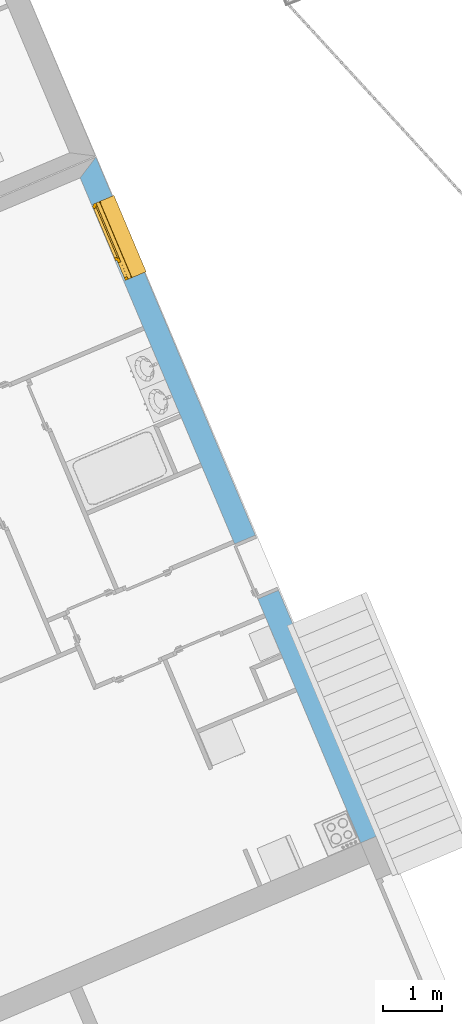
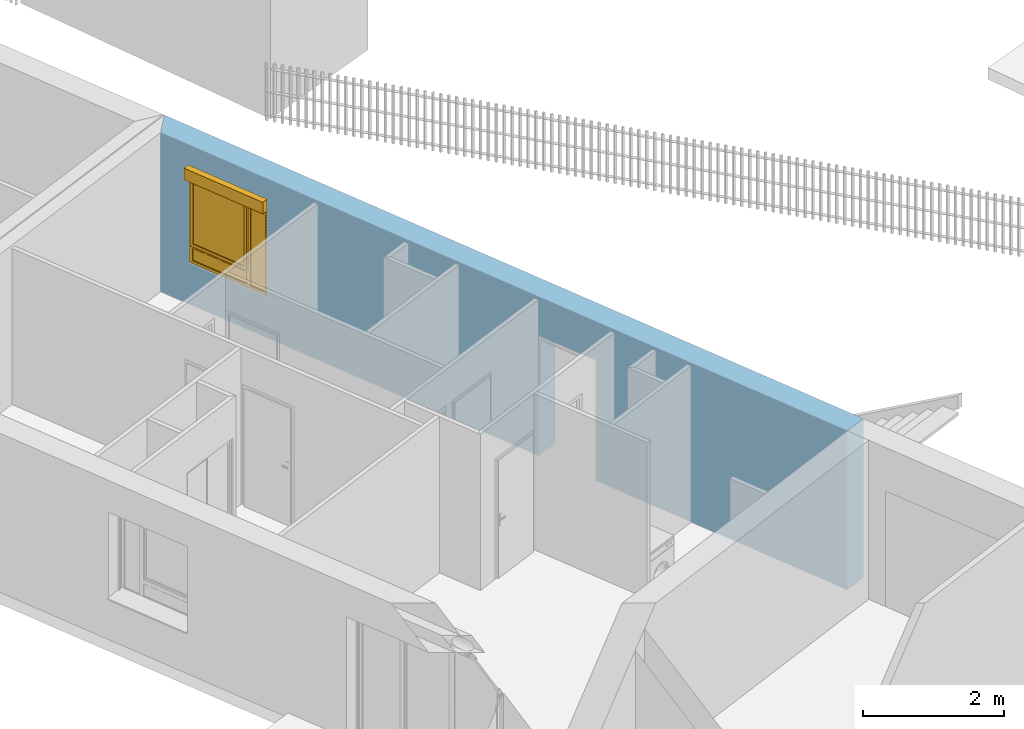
# One storey, part 55 of 195: 1 window, 2 openings, plus 1 element that does not belong to this part.
"""IFC2X3 building model written with IfcOpenShell, lengths in metres."""

from ifc_helpers import new_model, entity, si_unit, converted_unit, derived_unit, money_unit, direction, frame, origin_with_axes, origin_2d_with_axis, place, context, subcontext, project, spatial, polyline, rectangle, outline, extrude, open_shell, faceted_brep, surface_model, source, transform, mapped, material, layer, layer_set, layer_usage, type_object, element, fill, save


model = new_model("IFC2X3")

# Units and contexts
model_context = context("Model", 3, precision=1e-05, world=origin_with_axes(), true_north=direction((0.0, 1.0)))
body_context = subcontext(model_context, "Body", "Model", "MODEL_VIEW")
ifc_project = project(units=[si_unit("LENGTHUNIT", "METRE"), si_unit("AREAUNIT", "SQUARE_METRE"), si_unit("VOLUMEUNIT", "CUBIC_METRE"), converted_unit("PLANEANGLEUNIT", "DEGREE", entity("IfcPlaneAngleMeasure", 0.0174532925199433), si_unit("PLANEANGLEUNIT", "RADIAN"), dimensions=[0, 0, 0, 0, 0, 0, 0]), money_unit("CHF"), converted_unit("TIMEUNIT", "Year", entity("IfcTimeMeasure", 31557600.0), si_unit("TIMEUNIT", "SECOND"), dimensions=[0, 0, 1, 0, 0, 0, 0]), si_unit("MASSUNIT", "GRAM", prefix="KILO"), si_unit("THERMODYNAMICTEMPERATUREUNIT", "DEGREE_CELSIUS"), si_unit("LUMINOUSINTENSITYUNIT", "LUMEN"), si_unit("ENERGYUNIT", "JOULE", prefix="MEGA"), derived_unit("THERMALCONDUCTANCEUNIT", [(si_unit("POWERUNIT", "WATT"), 1), (si_unit("LENGTHUNIT", "METRE"), -1), (si_unit("THERMODYNAMICTEMPERATUREUNIT", "KELVIN"), -1)]), derived_unit("SPECIFICHEATCAPACITYUNIT", [(si_unit("ENERGYUNIT", "JOULE"), 1), (si_unit("MASSUNIT", "GRAM", prefix="KILO"), -1), (si_unit("THERMODYNAMICTEMPERATUREUNIT", "KELVIN"), -1)]), derived_unit("MASSDENSITYUNIT", [(si_unit("MASSUNIT", "GRAM", prefix="KILO"), 1), (si_unit("VOLUMEUNIT", "CUBIC_METRE"), -1)])], contexts=[model_context])

# Site, building, storey
site_placement = place(None, origin_with_axes())
site = spatial("IfcSite", under=ifc_project, at=site_placement, Name="Site", CompositionType="ELEMENT")
building_placement = place(site_placement, origin_with_axes())
building = spatial("IfcBuilding", under=site, at=building_placement, Name="Bâtiment", CompositionType="ELEMENT")
storey_placement = place(building_placement, origin_with_axes())
storey = spatial("IfcBuildingStorey", under=building, at=storey_placement, Name="rdc", CompositionType="ELEMENT", Elevation=0.0)

# Wall, openings, window
ifc_material_1 = material(Name="Parpaing 312445824")
ifc_layer_1 = layer(ifc_material_1, 0.22, ventilated="UNKNOWN")
ifc_material_2 = material(Name="Isolant styromousse 301821074")
ifc_layer_2 = layer(ifc_material_2, 0.16, ventilated="UNKNOWN")
ifc_layer_set = layer_set([ifc_layer_1, ifc_layer_2], Name="isol int 22+16 0836643197")
ifc_layer_usage = layer_usage(ifc_layer_set, "AXIS2", "NEGATIVE", 0.0)
wall_type = type_object("IfcWallType", Name="isol int 22+16 0836643197 380", PredefinedType="NOTDEFINED")
wall_placement = place(storey_placement, frame((9570.4407028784, -1042.559971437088, 57.7), z_axis=(0.0, 0.0, 1.0), x_axis=(0.3885669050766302, -0.9214205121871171, 0.0)))
wall = element("IfcWallStandardCase", 1, at=wall_placement, inside=storey, type_object=wall_type, material=ifc_layer_usage, Name="Mur-113", context=body_context, shape_type="SweptSolid", body=[
    extrude(outline(polyline([(0.0, -0.3799999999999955), (12.19520226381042, -0.3800000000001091), (12.19520226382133, 0.0), (-0.2199999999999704, 0.0), (0.0, -0.3799999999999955)])), origin_with_axes(), (0.0, 0.0, 1.0), 2.75),
])
opening_1_placement = place(wall_placement, frame((1.194048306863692, 0.0, 0.7000000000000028), z_axis=(0.0, 0.0, 1.0), x_axis=(1.0, 0.0, 0.0)))
opening_1 = element("IfcOpeningElement", 2, at=opening_1_placement, cuts=wall, Name="Fen-045", context=body_context, shape_type="Brep", body=[
    faceted_brep([(-0.6999999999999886, -0.2200000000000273, 1.5), (0.6999999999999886, -0.2200000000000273, 1.5), (0.7000000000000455, 4.367291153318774, 1.5), (-0.6999999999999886, 4.367291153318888, 1.5), (-0.6999999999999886, -0.2200000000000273, 1.700000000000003), (0.6999999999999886, -0.2200000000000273, 1.700000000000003), (0.7000000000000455, -0.2999999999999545, 1.5), (0.7000000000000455, -0.2999999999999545, 0.0), (0.7000000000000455, 4.367291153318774, 0.0), (-0.6999999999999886, 4.367291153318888, 0.0), (-0.7000000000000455, -0.3000000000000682, 1.5), (-0.7000000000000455, -0.3000000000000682, 0.0), (-0.7000000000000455, -0.4800000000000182, 1.5), (-0.7000000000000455, -0.4800000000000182, 1.700000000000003), (0.7000000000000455, -0.4800000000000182, 1.700000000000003), (0.7000000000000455, -0.4800000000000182, 1.5), (0.7000000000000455, -4.747291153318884, 1.5), (0.7000000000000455, -4.747291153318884, 0.0), (-0.7000000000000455, -4.747291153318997, 0.0), (-0.7000000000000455, -4.747291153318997, 1.5)], [[[0, 1, 2, 3]], [[1, 0, 4, 5]], [[1, 6, 7, 8, 2]], [[2, 8, 9, 3]], [[10, 0, 3, 9, 11]], [[0, 10, 12, 13, 4]], [[14, 5, 4, 13]], [[6, 1, 5, 14, 15]], [[6, 15, 16, 17, 7]], [[7, 11, 9, 8]], [[12, 10, 11, 18, 19]], [[12, 15, 14, 13]], [[15, 12, 19, 16]], [[19, 18, 17, 16]], [[11, 7, 17, 18]]]),
])
opening_2_placement = place(wall_placement, frame((7.218539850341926, 0.0, 0.0), z_axis=(0.0, 0.0, 1.0), x_axis=(1.0, 0.0, 0.0)))
element("IfcOpeningElement", 3, at=opening_2_placement, cuts=wall, Name="Por-290", context=body_context, shape_type="SweptSolid", body=[
    extrude(rectangle(XDim=1.01000001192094, YDim=2.079999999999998, at=origin_2d_with_axis()), frame((-5.960373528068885e-09, 0.3800000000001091, 1.039999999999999), z_axis=(0.0, -1.0, 0.0), x_axis=(-1.0, 0.0, 0.0)), (0.0, 0.0, 1.0), 0.76),
])
window_style = type_object("IfcWindowStyle", Name="Fenêtre variable 27", ConstructionType="NOTDEFINED", OperationType="TRIPLE_PANEL_LEFT", ParameterTakesPrecedence=False, Sizeable=False)
shared_shape = source(origin_with_axes(), body_context, "Body", "SurfaceModel", [
    surface_model("IfcShellBasedSurfaceModel", [(0.7, -0.05100000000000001, 0.05), (-0.7, -0.05100000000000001, 0.05000000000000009), (-0.7, -0.05100000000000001, 0.04000000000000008), (0.7, -0.05100000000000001, 0.04), (-0.7, -0.3799999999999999, 0.02900000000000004), (0.7, -0.3799999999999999, 0.02899999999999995), (-0.7, -0.3799999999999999, 0.00900000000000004), (0.7, -0.3799999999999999, 0.008999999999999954), (-0.7, -0.3699999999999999, 0.01900000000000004), (0.7, -0.3699999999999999, 0.01899999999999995)], [open_shell([[[0, 1, 2, 3]], [[3, 2, 4, 5]], [[5, 4, 6, 7]], [[7, 6, 8, 9]]])]),
    faceted_brep([(0.7, -0.13, 1.7), (0.7, 0.13, 1.7), (0.697, 0.13, 1.7), (0.697, -0.13, 1.7), (0.7, -0.13, 1.5), (0.7, 0.13, 1.5), (0.697, 0.13, 1.5), (0.697, -0.13, 1.5)], [[[0, 1, 2, 3]], [[0, 4, 5, 1]], [[1, 5, 6, 2]], [[3, 2, 6, 7]], [[4, 0, 3, 7]], [[5, 4, 7, 6]]]),
    faceted_brep([(-0.6970000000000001, -0.1299999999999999, 1.7), (-0.6970000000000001, 0.1300000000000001, 1.7), (-0.7000000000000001, 0.1300000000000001, 1.7), (-0.7000000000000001, -0.1299999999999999, 1.7), (-0.6970000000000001, -0.1299999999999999, 1.5), (-0.6970000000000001, 0.1300000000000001, 1.5), (-0.7000000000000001, 0.1300000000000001, 1.5), (-0.7000000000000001, -0.1299999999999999, 1.5)], [[[0, 1, 2, 3]], [[0, 4, 5, 1]], [[1, 5, 6, 2]], [[3, 2, 6, 7]], [[4, 0, 3, 7]], [[5, 4, 7, 6]]]),
    faceted_brep([(0.697, -0.13, 1.5), (0.697, -0.13, 1.7), (-0.697, -0.1299999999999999, 1.7), (-0.697, -0.1299999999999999, 1.5), (0.697, -0.127, 1.5), (0.697, -0.127, 1.697), (0.697, 0.127, 1.697), (0.697, 0.127, 1.503), (0.697, -0.108, 1.503), (0.697, -0.108, 1.5), (0.697, 0.13, 1.5), (0.697, 0.13, 1.7), (-0.697, 0.1300000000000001, 1.7), (-0.697, 0.1300000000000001, 1.5), (-0.697, -0.1079999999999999, 1.5), (-0.697, -0.1079999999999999, 1.503), (-0.697, 0.1270000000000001, 1.503), (-0.697, 0.1270000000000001, 1.697), (-0.697, -0.1269999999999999, 1.697), (-0.697, -0.1269999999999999, 1.5)], [[[0, 1, 2, 3]], [[0, 4, 5, 6, 7, 8, 9, 10, 11, 1]], [[1, 11, 12, 2]], [[3, 2, 12, 13, 14, 15, 16, 17, 18, 19]], [[4, 0, 3, 19]], [[5, 4, 19, 18]], [[6, 5, 18, 17]], [[7, 6, 17, 16]], [[8, 7, 16, 15]], [[9, 8, 15, 14]], [[10, 9, 14, 13]], [[11, 10, 13, 12]]]),
    faceted_brep([(0.694, -0.08075423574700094, 1.585760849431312), (0.694, -0.07705479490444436, 1.571954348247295), (0.694, -0.07101408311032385, 1.559), (0.694, -0.06281564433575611, 1.547291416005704), (0.694, -0.05270858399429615, 1.537184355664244), (0.694, -0.04099999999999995, 1.528985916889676), (0.694, -0.02804565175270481, 1.522945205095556), (0.694, -0.01423915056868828, 1.519245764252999), (0.694, 0.0, 1.518), (0.694, 0.01423915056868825, 1.519245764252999), (0.694, 0.02804565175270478, 1.522945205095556), (0.694, 0.04099999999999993, 1.528985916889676), (0.694, 0.05270858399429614, 1.537184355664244), (0.694, 0.06281564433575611, 1.547291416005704), (0.694, 0.07101408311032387, 1.559), (0.694, 0.07705479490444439, 1.571954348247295), (0.694, 0.08075423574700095, 1.585760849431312), (0.694, 0.0819999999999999, 1.6), (0.694, 0.08075423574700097, 1.614239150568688), (0.694, 0.0770547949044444, 1.628045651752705), (0.694, 0.07101408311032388, 1.641), (0.694, 0.06281564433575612, 1.652708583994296), (0.694, 0.05270858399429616, 1.662815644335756), (0.694, 0.04099999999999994, 1.671014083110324), (0.694, 0.02804565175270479, 1.677054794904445), (0.694, 0.01423915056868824, 1.680754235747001), (0.694, 0.0, 1.682), (0.694, -0.01423915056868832, 1.680754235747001), (0.694, -0.02804565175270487, 1.677054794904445), (0.694, -0.04100000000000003, 1.671014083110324), (0.694, -0.05270858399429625, 1.662815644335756), (0.694, -0.06281564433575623, 1.652708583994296), (0.694, -0.07101408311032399, 1.641), (0.694, -0.07705479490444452, 1.628045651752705), (0.694, -0.0807542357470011, 1.614239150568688), (0.694, -0.08200000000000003, 1.6), (-0.694, -0.08075423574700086, 1.585760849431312), (-0.694, -0.07705479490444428, 1.571954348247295), (-0.694, -0.07101408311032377, 1.559), (-0.694, -0.06281564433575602, 1.547291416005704), (-0.694, -0.05270858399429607, 1.537184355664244), (-0.694, -0.04099999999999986, 1.528985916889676), (-0.694, -0.02804565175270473, 1.522945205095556), (-0.694, -0.0142391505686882, 1.519245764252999), (-0.694, 0.0, 1.518), (-0.694, 0.01423915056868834, 1.519245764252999), (-0.694, 0.02804565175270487, 1.522945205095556), (-0.694, 0.04100000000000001, 1.528985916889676), (-0.694, 0.05270858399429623, 1.537184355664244), (-0.694, 0.06281564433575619, 1.547291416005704), (-0.694, 0.07101408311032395, 1.559), (-0.694, 0.07705479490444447, 1.571954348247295), (-0.694, 0.08075423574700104, 1.585760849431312), (-0.694, 0.08199999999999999, 1.6), (-0.694, 0.08075423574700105, 1.614239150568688), (-0.694, 0.07705479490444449, 1.628045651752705), (-0.694, 0.07101408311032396, 1.641), (-0.694, 0.0628156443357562, 1.652708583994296), (-0.694, 0.05270858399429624, 1.662815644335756), (-0.694, 0.04100000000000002, 1.671014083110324), (-0.694, 0.02804565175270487, 1.677054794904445), (-0.694, 0.01423915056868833, 1.680754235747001), (-0.694, 0.0, 1.682), (-0.694, -0.01423915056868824, 1.680754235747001), (-0.694, -0.02804565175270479, 1.677054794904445), (-0.694, -0.04099999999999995, 1.671014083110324), (-0.694, -0.05270858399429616, 1.662815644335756), (-0.694, -0.06281564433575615, 1.652708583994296), (-0.694, -0.07101408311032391, 1.641), (-0.694, -0.07705479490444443, 1.628045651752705), (-0.694, -0.08075423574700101, 1.614239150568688), (-0.694, -0.08199999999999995, 1.6)], [[[0, 1, 2, 3, 4, 5, 6, 7, 8, 9, 10, 11, 12, 13, 14, 15, 16, 17, 18, 19, 20, 21, 22, 23, 24, 25, 26, 27, 28, 29, 30, 31, 32, 33, 34, 35]], [[1, 0, 36, 37]], [[2, 1, 37, 38]], [[3, 2, 38, 39]], [[4, 3, 39, 40]], [[5, 4, 40, 41]], [[6, 5, 41, 42]], [[7, 6, 42, 43]], [[8, 7, 43, 44]], [[9, 8, 44, 45]], [[10, 9, 45, 46]], [[11, 10, 46, 47]], [[12, 11, 47, 48]], [[13, 12, 48, 49]], [[14, 13, 49, 50]], [[15, 14, 50, 51]], [[16, 15, 51, 52]], [[17, 16, 52, 53]], [[18, 17, 53, 54]], [[19, 18, 54, 55]], [[20, 19, 55, 56]], [[21, 20, 56, 57]], [[22, 21, 57, 58]], [[23, 22, 58, 59]], [[24, 23, 59, 60]], [[25, 24, 60, 61]], [[26, 25, 61, 62]], [[27, 26, 62, 63]], [[28, 27, 63, 64]], [[29, 28, 64, 65]], [[30, 29, 65, 66]], [[31, 30, 66, 67]], [[32, 31, 67, 68]], [[33, 32, 68, 69]], [[34, 33, 69, 70]], [[35, 34, 70, 71]], [[0, 35, 71, 36]], [[36, 71, 70, 69, 68, 67, 66, 65, 64, 63, 62, 61, 60, 59, 58, 57, 56, 55, 54, 53, 52, 51, 50, 49, 48, 47, 46, 45, 44, 43, 42, 41, 40, 39, 38, 37]]]),
    faceted_brep([(-0.7, -0.105, 0.03), (-0.7, -0.13, 0.03), (-0.7, -0.1299999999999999, 1.5), (-0.7, -0.1049999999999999, 1.5), (-0.6749999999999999, -0.105, 0.03), (-0.6749999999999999, -0.108, 0.03), (-0.697, -0.108, 0.03), (-0.697, -0.127, 0.03), (-0.6749999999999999, -0.127, 0.03), (-0.6749999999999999, -0.13, 0.03), (-0.6749999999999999, -0.1299999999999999, 1.5), (-0.6749999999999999, -0.1269999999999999, 1.5), (-0.697, -0.1269999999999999, 1.5), (-0.697, -0.1079999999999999, 1.5), (-0.6749999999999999, -0.1079999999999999, 1.5), (-0.6749999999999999, -0.1049999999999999, 1.5)], [[[0, 1, 2, 3]], [[0, 4, 5, 6, 7, 8, 9, 1]], [[1, 9, 10, 2]], [[3, 2, 10, 11, 12, 13, 14, 15]], [[4, 0, 3, 15]], [[5, 4, 15, 14]], [[6, 5, 14, 13]], [[7, 6, 13, 12]], [[8, 7, 12, 11]], [[9, 8, 11, 10]]]),
    faceted_brep([(0.7, -0.105, 0.03), (0.7, -0.1049999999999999, 1.5), (0.7, -0.1299999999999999, 1.5), (0.7, -0.13, 0.03), (0.6749999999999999, -0.105, 0.03), (0.6749999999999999, -0.1049999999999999, 1.5), (0.6749999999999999, -0.1079999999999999, 1.5), (0.697, -0.1079999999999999, 1.5), (0.697, -0.1269999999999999, 1.5), (0.6749999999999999, -0.1269999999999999, 1.5), (0.6749999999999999, -0.1299999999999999, 1.5), (0.6749999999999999, -0.13, 0.03), (0.6749999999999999, -0.127, 0.03), (0.697, -0.127, 0.03), (0.697, -0.108, 0.03), (0.6749999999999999, -0.108, 0.03)], [[[0, 1, 2, 3]], [[4, 5, 1, 0]], [[1, 5, 6, 7, 8, 9, 10, 2]], [[3, 2, 10, 11]], [[0, 3, 11, 12, 13, 14, 15, 4]], [[15, 6, 5, 4]], [[14, 7, 6, 15]], [[13, 8, 7, 14]], [[12, 9, 8, 13]], [[11, 10, 9, 12]]]),
    surface_model("IfcShellBasedSurfaceModel", [(0.697, -0.115, 1.6), (-0.697, -0.1149999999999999, 1.6), (-0.697, -0.12, 1.6), (0.697, -0.12, 1.6), (0.697, -0.115, 1.6), (0.697, -0.12, 1.6), (-0.697, -0.1199999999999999, 1.6), (-0.697, -0.1149999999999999, 1.6)], [open_shell([[[0, 1, 2, 3]], [[4, 5, 6, 7]]])]),
    faceted_brep([(0.697, -0.115, 1.6), (0.697, -0.1166666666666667, 1.583333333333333), (-0.697, -0.1166666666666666, 1.583333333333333), (-0.697, -0.1149999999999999, 1.6), (0.697, -0.12, 1.6), (0.697, -0.1216666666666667, 1.583333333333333), (0.697, -0.1216666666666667, 1.566666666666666), (0.697, -0.12, 1.55), (0.697, -0.115, 1.55), (0.697, -0.1166666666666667, 1.566666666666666), (-0.697, -0.1166666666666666, 1.566666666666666), (-0.697, -0.1149999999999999, 1.55), (-0.697, -0.1199999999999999, 1.55), (-0.697, -0.1216666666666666, 1.566666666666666), (-0.697, -0.1216666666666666, 1.583333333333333), (-0.697, -0.1199999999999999, 1.6)], [[[0, 1, 2, 3]], [[0, 4, 5, 6, 7, 8, 9, 1]], [[1, 9, 10, 2]], [[3, 2, 10, 11, 12, 13, 14, 15]], [[4, 0, 3, 15]], [[5, 4, 15, 14]], [[6, 5, 14, 13]], [[7, 6, 13, 12]], [[8, 7, 12, 11]], [[9, 8, 11, 10]]]),
    faceted_brep([(0.697, -0.115, 1.55), (0.697, -0.1166666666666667, 1.533333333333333), (-0.697, -0.1166666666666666, 1.533333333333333), (-0.697, -0.1149999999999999, 1.55), (0.697, -0.12, 1.55), (0.697, -0.1216666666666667, 1.533333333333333), (0.697, -0.1216666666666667, 1.516666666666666), (0.697, -0.12, 1.5), (0.697, -0.115, 1.5), (0.697, -0.1166666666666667, 1.516666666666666), (-0.697, -0.1166666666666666, 1.516666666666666), (-0.697, -0.1149999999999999, 1.5), (-0.697, -0.1199999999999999, 1.5), (-0.697, -0.1216666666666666, 1.516666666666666), (-0.697, -0.1216666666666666, 1.533333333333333), (-0.697, -0.1199999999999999, 1.55)], [[[0, 1, 2, 3]], [[0, 4, 5, 6, 7, 8, 9, 1]], [[1, 9, 10, 2]], [[3, 2, 10, 11, 12, 13, 14, 15]], [[4, 0, 3, 15]], [[5, 4, 15, 14]], [[6, 5, 14, 13]], [[7, 6, 13, 12]], [[8, 7, 12, 11]], [[9, 8, 11, 10]]]),
    faceted_brep([(0.6749999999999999, 0.0, 1.45), (0.6749999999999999, -0.02500000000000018, 1.45), (0.6499999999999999, -0.02500000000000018, 1.45), (0.6499999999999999, -0.05000000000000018, 1.45), (0.7, -0.05000000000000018, 1.45), (0.7, 0.0, 1.45), (0.6749999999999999, 0.0, 0.3099999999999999), (0.6749999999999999, -0.02500000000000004, 0.3099999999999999), (0.6499999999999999, -0.02500000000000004, 0.335), (0.6499999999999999, -0.02500000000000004, 0.3099999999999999), (0.6499999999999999, -0.05000000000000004, 0.335), (0.6499999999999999, -0.05000000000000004, 0.265), (0.6499999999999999, -0.05000000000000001, 0.05000000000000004), (0.7, -0.05000000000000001, 0.05000000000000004), (0.7, 0.0, 0.05000000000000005), (0.6499999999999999, 0.0, 0.05000000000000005), (0.6499999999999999, 0.0, 0.265), (0.6499999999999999, 0.0, 0.3099999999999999)], [[[0, 1, 2, 3, 4, 5]], [[1, 0, 6, 7]], [[8, 2, 1, 7, 9]], [[2, 8, 10, 3]], [[10, 11, 12, 13, 4, 3]], [[5, 4, 13, 14]], [[6, 0, 5, 14, 15, 16, 17]], [[6, 17, 9, 7]], [[9, 17, 16, 11, 10, 8]], [[15, 12, 11, 16]], [[14, 13, 12, 15]]]),
    faceted_brep([(-0.3068894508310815, -0.02500000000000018, 1.45), (-0.3318894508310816, -0.02500000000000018, 1.45), (-0.3318894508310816, 0.0, 1.45), (-0.3768894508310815, 0.0, 1.45), (-0.3768894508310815, -0.05000000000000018, 1.45), (-0.3068894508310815, -0.05000000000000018, 1.45), (-0.3068894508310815, -0.02500000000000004, 0.335), (-0.3068894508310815, -0.02500000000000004, 0.3099999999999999), (-0.3318894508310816, -0.02500000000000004, 0.3099999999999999), (-0.3318894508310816, 0.0, 0.3099999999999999), (-0.3068894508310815, 0.0, 0.3099999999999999), (-0.3068894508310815, 0.0, 0.265), (-0.3068894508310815, 0.0, 0.05000000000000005), (-0.3768894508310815, 0.0, 0.05000000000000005), (-0.3768894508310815, -0.05000000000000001, 0.05000000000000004), (-0.3068894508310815, -0.05000000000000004, 0.265), (-0.3068894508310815, -0.05000000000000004, 0.335), (-0.3068894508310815, -0.05000000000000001, 0.05000000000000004)], [[[0, 1, 2, 3, 4, 5]], [[1, 0, 6, 7, 8]], [[9, 2, 1, 8]], [[9, 10, 11, 12, 13, 3, 2]], [[13, 14, 4, 3]], [[15, 16, 5, 4, 14, 17]], [[6, 0, 5, 16]], [[7, 6, 16, 15, 11, 10]], [[10, 9, 8, 7]], [[11, 15, 17, 12]], [[12, 17, 14, 13]]]),
    faceted_brep([(0.6499999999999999, -0.02500000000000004, 0.335), (-0.3068894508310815, -0.02500000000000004, 0.335), (-0.3068894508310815, -0.05000000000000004, 0.335), (0.6499999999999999, -0.05000000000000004, 0.335), (-0.3068894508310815, -0.02500000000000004, 0.3099999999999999), (0.6499999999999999, -0.02500000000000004, 0.3099999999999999), (-0.3068894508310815, 0.0, 0.3099999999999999), (-0.3068894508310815, 0.0, 0.265), (-0.3068894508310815, -0.05000000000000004, 0.265), (0.6499999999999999, -0.05000000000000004, 0.265), (0.6499999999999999, 0.0, 0.265), (0.6499999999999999, 0.0, 0.3099999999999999)], [[[0, 1, 2, 3]], [[4, 1, 0, 5]], [[4, 6, 7, 8, 2, 1]], [[2, 8, 9, 3]], [[5, 0, 3, 9, 10, 11]], [[11, 6, 4, 5]], [[6, 11, 10, 7]], [[10, 9, 8, 7]]]),
    faceted_brep([(0.6749999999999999, 0.0, 1.45), (0.6749999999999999, 0.0, 1.475), (-0.3318894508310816, 0.0, 1.475), (-0.3318894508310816, 0.0, 1.45), (-0.3768894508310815, 0.0, 1.45), (-0.6499999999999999, 0.0, 1.45), (-0.7, 0.0, 1.45), (-0.7, 0.0, 1.5), (0.7, 0.0, 1.5), (0.7, 0.0, 1.45), (0.6749999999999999, -0.02500000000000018, 1.45), (0.6749999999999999, -0.02500000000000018, 1.475), (-0.3318894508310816, -0.02500000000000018, 1.475), (-0.3318894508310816, -0.02500000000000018, 1.45), (-0.3068894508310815, -0.02500000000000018, 1.45), (-0.3068894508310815, -0.05000000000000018, 1.45), (-0.3768894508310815, -0.05000000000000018, 1.45), (-0.6499999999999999, -0.05000000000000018, 1.45), (-0.7, -0.05000000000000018, 1.45), (-0.7, -0.05000000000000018, 1.5), (0.7, -0.05000000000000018, 1.5), (0.7, -0.05000000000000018, 1.45), (0.6499999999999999, -0.05000000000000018, 1.45), (0.6499999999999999, -0.02500000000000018, 1.45)], [[[0, 1, 2, 3, 4, 5, 6, 7, 8, 9]], [[1, 0, 10, 11]], [[2, 1, 11, 12]], [[3, 2, 12, 13]], [[13, 14, 15, 16, 4, 3]], [[4, 16, 17, 5]], [[5, 17, 18, 6]], [[6, 18, 19, 7]], [[7, 19, 20, 8]], [[8, 20, 21, 9]], [[10, 0, 9, 21, 22, 23]], [[14, 13, 12, 11, 10, 23]], [[14, 23, 22, 15]], [[16, 15, 22, 21, 20, 19, 18, 17]]]),
    faceted_brep([(-0.6499999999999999, -0.05000000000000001, 0.05), (-0.7, -0.05000000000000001, 0.05), (-0.7, 0.0, 0.05000000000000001), (-0.6499999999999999, 0.0, 0.05000000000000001), (-0.6499999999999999, -0.05000000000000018, 1.45), (-0.7, -0.05000000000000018, 1.45), (-0.7, 0.0, 1.45), (-0.6499999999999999, 0.0, 1.45)], [[[0, 1, 2, 3]], [[0, 4, 5, 1]], [[1, 5, 6, 2]], [[3, 2, 6, 7]], [[4, 0, 3, 7]], [[5, 4, 7, 6]]]),
    faceted_brep([(0.6499999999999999, -0.05000000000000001, 0.05), (0.7, -0.05000000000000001, 0.05), (0.7, 0.0, 0.05000000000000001), (0.6499999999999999, 0.0, 0.05000000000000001), (-0.3068894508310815, -0.05000000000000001, 0.05), (-0.3768894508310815, -0.05000000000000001, 0.05), (-0.6499999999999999, -0.05000000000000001, 0.05), (-0.7, -0.05000000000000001, 0.05), (-0.7, -0.05, 0.0), (0.7, -0.05, 0.0), (0.7, 0.0, 0.0), (-0.7, 0.0, 0.0), (-0.7, 0.0, 0.05000000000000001), (-0.6499999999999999, 0.0, 0.05000000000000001), (-0.3768894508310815, 0.0, 0.05000000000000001), (-0.3068894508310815, 0.0, 0.05000000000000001)], [[[0, 1, 2, 3]], [[0, 4, 5, 6, 7, 8, 9, 1]], [[1, 9, 10, 2]], [[3, 2, 10, 11, 12, 13, 14, 15]], [[4, 0, 3, 15]], [[5, 4, 15, 14]], [[6, 5, 14, 13]], [[7, 6, 13, 12]], [[8, 7, 12, 11]], [[9, 8, 11, 10]]]),
    faceted_brep([(0.625, -0.02500000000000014, 1.425), (0.6749999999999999, -0.02500000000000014, 1.425), (0.6749999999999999, 0.02499999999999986, 1.425), (0.625, 0.02499999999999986, 1.425), (0.625, -0.02500000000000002, 0.3599999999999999), (0.6749999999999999, -0.02500000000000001, 0.3599999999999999), (0.6749999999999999, 0.02499999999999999, 0.3599999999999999), (0.625, 0.02499999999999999, 0.3599999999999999)], [[[0, 1, 2, 3]], [[0, 4, 5, 1]], [[1, 5, 6, 2]], [[3, 2, 6, 7]], [[4, 0, 3, 7]], [[5, 4, 7, 6]]]),
    faceted_brep([(-0.2818894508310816, -0.02500000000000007, 0.3599999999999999), (-0.3318894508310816, -0.02500000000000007, 0.3599999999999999), (-0.3318894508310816, 0.02499999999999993, 0.3599999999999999), (-0.2818894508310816, 0.02499999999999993, 0.3599999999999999), (-0.2818894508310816, -0.0250000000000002, 1.425), (-0.3318894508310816, -0.0250000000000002, 1.425), (-0.3318894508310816, 0.0249999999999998, 1.425), (-0.2818894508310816, 0.0249999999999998, 1.425)], [[[0, 1, 2, 3]], [[0, 4, 5, 1]], [[1, 5, 6, 2]], [[3, 2, 6, 7]], [[4, 0, 3, 7]], [[5, 4, 7, 6]]]),
    faceted_brep([(-0.3318894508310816, -0.02500000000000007, 0.3099999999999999), (-0.3318894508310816, -0.02500000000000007, 0.3599999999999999), (-0.3318894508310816, 0.02499999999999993, 0.3599999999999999), (-0.3318894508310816, 0.02499999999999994, 0.3099999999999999), (0.6749999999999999, -0.025, 0.3099999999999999), (0.6749999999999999, -0.02500000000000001, 0.3599999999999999), (0.625, -0.02500000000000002, 0.3599999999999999), (-0.2818894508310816, -0.02500000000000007, 0.3599999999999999), (-0.2818894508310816, 0.02499999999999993, 0.3599999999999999), (0.625, 0.02499999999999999, 0.3599999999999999), (0.6749999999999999, 0.02499999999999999, 0.3599999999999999), (0.6749999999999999, 0.02499999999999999, 0.3099999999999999)], [[[0, 1, 2, 3]], [[0, 4, 5, 6, 7, 1]], [[1, 7, 8, 2]], [[3, 2, 8, 9, 10, 11]], [[4, 0, 3, 11]], [[5, 4, 11, 10]], [[6, 5, 10, 9]], [[7, 6, 9, 8]]]),
    faceted_brep([(0.6749999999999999, -0.02500000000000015, 1.475), (0.6749999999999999, -0.02500000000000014, 1.425), (0.6749999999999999, 0.02499999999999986, 1.425), (0.6749999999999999, 0.02499999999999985, 1.475), (-0.3318894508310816, -0.02500000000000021, 1.475), (-0.3318894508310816, -0.0250000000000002, 1.425), (-0.2818894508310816, -0.0250000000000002, 1.425), (0.625, -0.02500000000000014, 1.425), (0.625, 0.02499999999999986, 1.425), (-0.2818894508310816, 0.0249999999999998, 1.425), (-0.3318894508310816, 0.0249999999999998, 1.425), (-0.3318894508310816, 0.02499999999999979, 1.475)], [[[0, 1, 2, 3]], [[0, 4, 5, 6, 7, 1]], [[1, 7, 8, 2]], [[3, 2, 8, 9, 10, 11]], [[4, 0, 3, 11]], [[5, 4, 11, 10]], [[6, 5, 10, 9]], [[7, 6, 9, 8]]]),
    surface_model("IfcShellBasedSurfaceModel", [(0.625, -0.01000000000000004, 0.3599999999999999), (0.625, -0.01000000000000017, 1.425), (-0.2818894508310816, -0.01000000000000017, 1.425), (-0.2818894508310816, -0.01000000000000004, 0.3599999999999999)], [open_shell([[[0, 1, 2, 3]]])]),
    surface_model("IfcShellBasedSurfaceModel", [(0.625, 0.009999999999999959, 0.3599999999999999), (-0.2818894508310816, 0.009999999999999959, 0.3599999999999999), (-0.2818894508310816, 0.00999999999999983, 1.425), (0.625, 0.00999999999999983, 1.425)], [open_shell([[[0, 1, 2, 3]]])]),
    surface_model("IfcShellBasedSurfaceModel", [(-0.3768894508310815, -0.035, 0.05), (-0.3768894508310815, -0.03500000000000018, 1.45), (-0.65, -0.03500000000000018, 1.45), (-0.65, -0.035, 0.05)], [open_shell([[[0, 1, 2, 3]]])]),
    surface_model("IfcShellBasedSurfaceModel", [(-0.3768894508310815, -0.015, 0.05), (-0.65, -0.015, 0.05), (-0.65, -0.01500000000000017, 1.45), (-0.3768894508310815, -0.01500000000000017, 1.45)], [open_shell([[[0, 1, 2, 3]]])]),
    surface_model("IfcShellBasedSurfaceModel", [(0.6499999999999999, -0.035, 0.05), (0.6499999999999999, -0.03500000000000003, 0.265), (-0.3068894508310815, -0.03500000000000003, 0.265), (-0.3068894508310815, -0.035, 0.05)], [open_shell([[[0, 1, 2, 3]]])]),
    surface_model("IfcShellBasedSurfaceModel", [(0.6499999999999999, -0.015, 0.05), (-0.3068894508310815, -0.015, 0.05), (-0.3068894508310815, -0.01500000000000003, 0.265), (0.6499999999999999, -0.01500000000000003, 0.265)], [open_shell([[[0, 1, 2, 3]]])]),
])
window_placement = place(opening_1_placement, frame((0.6999999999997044, 0.0, 0.0), z_axis=(0.0, 0.0, 1.0), x_axis=(-1.0, 0.0, 0.0)))
window = element("IfcWindow", 4, at=window_placement, inside=storey, type_object=window_style, Name="Fen-045", OverallHeight=1.5, OverallWidth=1.4, context=body_context, shape_type="MappedRepresentation", body=[
    mapped(shared_shape, transform((0.7000000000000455, 0.3500000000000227, 0.0))),
])
fill(opening_1, window)

save(model, "model.ifc")
